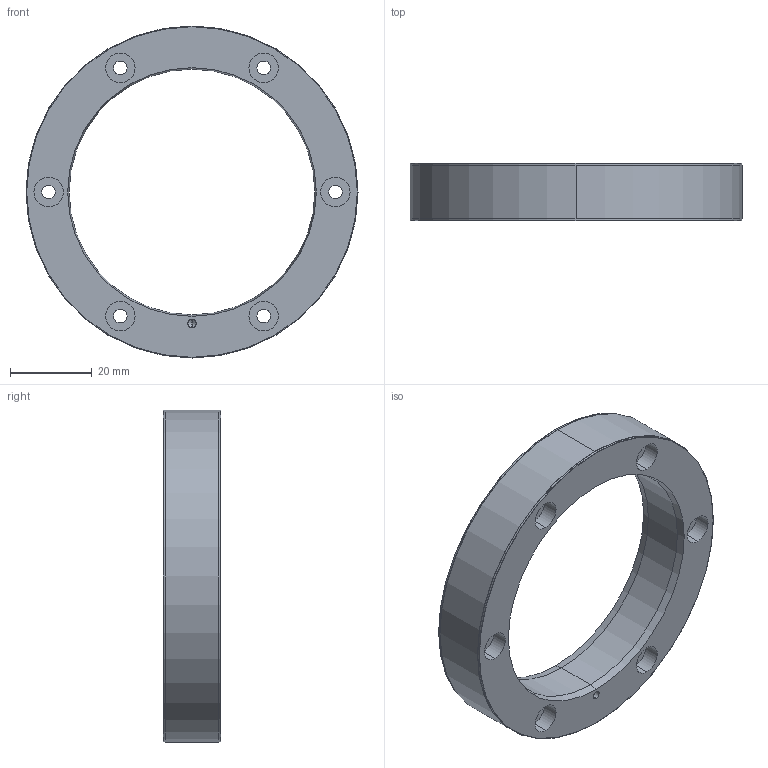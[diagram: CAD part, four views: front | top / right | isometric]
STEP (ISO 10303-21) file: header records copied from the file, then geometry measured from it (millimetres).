
FILE_DESCRIPTION (( 'STEP AP214' ), '1' );
FILE_NAME ('SAR081.STEP', '2023-04-21T12:46:35', ( '' ), ( '' ), 'SwSTEP 2.0', 'SolidWorks 2020', '' );
FILE_SCHEMA (( 'AUTOMOTIVE_DESIGN' ));
Length unit declared in the file: millimetre
Products named in the file (1): SAR081
Bounding box: 81.05 x 14 x 81.05 mm (x, y, z)
Volume: 30199.9 mm3; surface area: 12149.2 mm2
Topology: 1 solids, 1 shells, 577 faces, 1536 edges, 1014 vertices
Faces by surface type: plane 379, bspline 116, cylinder 58, cone 20, torus 4
Entity records: 24119 total; most frequent: CARTESIAN_POINT 9296, ORIENTED_EDGE 3064, DIRECTION 2364, EDGE_CURVE 1532, VECTOR 1160, LINE 1160, VERTEX_POINT 1014, EDGE_LOOP 648
